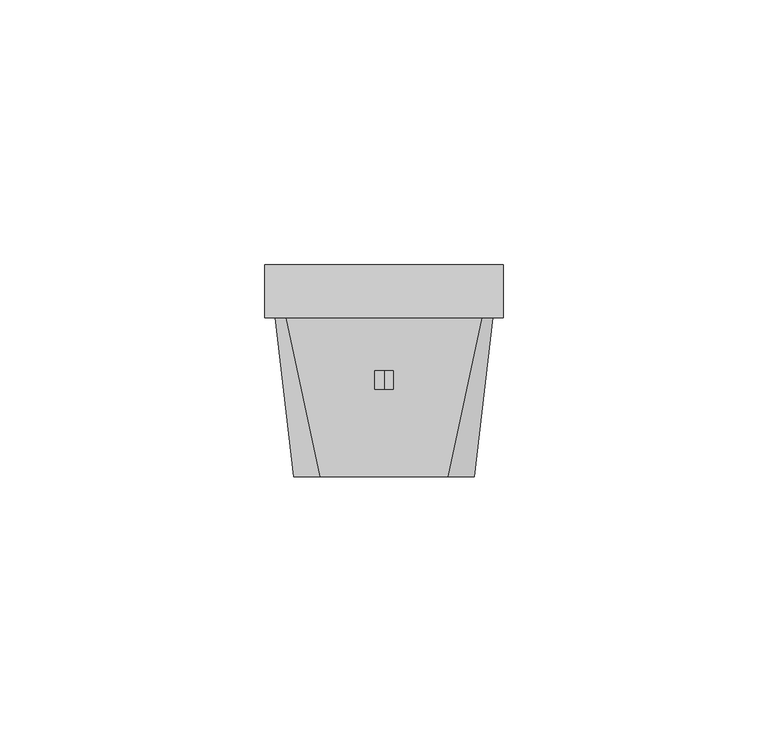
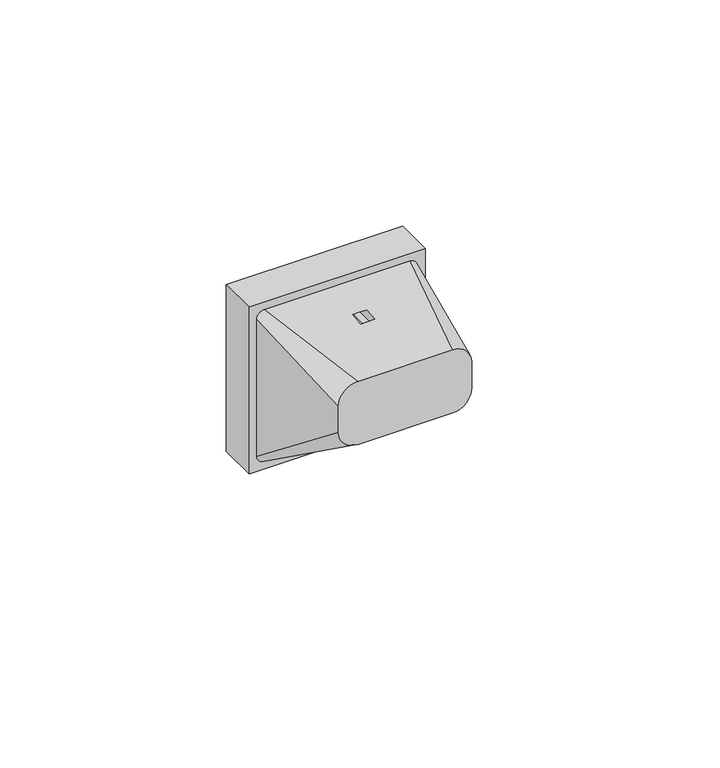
"""IFC4 building model written with IfcOpenShell, lengths in millimetres: proxy geometry, IEK_Skandy_Механизм розетки 230В : 230 В PE+шт. USB C_SK-R17B."""

from ifc_helpers import new_model, si_unit, point, frame, frame_2d, origin, origin_2d, place, context, project, spatial, polyline, circle_curve, ellipse_curve, trimmed, segment, composite_curve, outline, extrude, source, transform, mapped, element, save
from ifc_brep_helpers import plane_surface, cylinder_surface, revolved_surface, spline_surface, advanced_brep


def electrical_fixtures_49105fda(model_context):
    return source(origin(), model_context, "Body", "SolidModel", [
        advanced_brep(
        [(-12.0, -30.0, 17.0), (-17.0, -30.0, 12.0), (-17.0, -30.0, 5.0), (-12.0, -30.0, 0.0), (12.0, -30.0, 0.0), (17.0, -30.0, 5.0), (17.0, -30.0, 12.0), (12.0, -30.0, 17.0), (-18.5, 0.0, 20.5), (18.5, 0.0, 20.5), (20.5, 0.0, 18.5), (20.5, 0.0, -18.5), (18.5, 0.0, -20.5), (-18.5, 0.0, -20.5), (-20.5, 0.0, -18.5), (-20.5, 0.0, 18.5), (6.3904783, 0.0, 0.0), (11.8753617, 0.0, 0.0), (-3.0105286, 0.0, 0.0), (3.0105286, 0.0, 0.0), (-11.8753617, 0.0, 0.0), (-6.3904783, 0.0, 0.0), (1.7917908, 0.0, -19.3280847), (1.7917908, 0.0, -16.8280847), (0.0, 0.0, -16.8280847), (-1.7917908, 0.0, -16.8280847), (-1.7917908, 0.0, -19.3280847), (0.0, 0.0, -19.3280847), (1.7917908, 0.0, 19.3280847), (0.0, 0.0, 19.3280847), (-1.7917908, 0.0, 19.3280847), (-1.7917908, 0.0, 16.8280847), (0.0, 0.0, 16.8280847), (1.7917908, 0.0, 16.8280847), (1.7917908, -13.4962918, 18.9254326), (-1.7917908, -13.4962918, 18.9254326), (-1.7917908, -10.0449886, 19.3280847), (0.0, -10.0449886, 19.3280847), (1.7917908, -10.0449886, 19.3280847), (1.7917908, -5.3735346, -16.8280847), (1.7917908, -1.7149981, -19.3280847), (0.0, -1.7149981, -19.3280847), (-1.7917908, -1.7149981, -19.3280847), (-1.7917908, -5.3735346, -16.8280847), (0.0, -5.3735346, -16.8280847), (6.3904783, -13.4962918, 0.0), (11.8753617, -13.4962918, 0.0), (-3.0105286, -13.4962918, 0.0), (3.0105286, -13.4962918, 0.0), (-11.8753617, -13.4962918, 0.0), (-6.3904783, -13.4962918, 0.0), (1.7917908, -13.4962918, 16.8280847), (0.0, -13.4962918, 16.8280847), (-1.7917908, -13.4962918, 16.8280847)],
        [
            (0, 1, circle_curve(frame((-12.0, -30.0, 12.0), z_axis=(0.0, -1.0, 0.0), x_axis=(1.0, 0.0, 0.0)), 5.0)),
            (1, 2),
            (2, 3, circle_curve(frame((-12.0, -30.0, 5.0), z_axis=(0.0, -1.0, 0.0), x_axis=(1.0, 0.0, 0.0)), 5.0)),
            (3, 4),
            (4, 5, circle_curve(frame((12.0, -30.0, 5.0), z_axis=(0.0, -1.0, 0.0), x_axis=(1.0, 0.0, 0.0)), 5.0)),
            (5, 6),
            (6, 7, circle_curve(frame((12.0, -30.0, 12.0), z_axis=(0.0, -1.0, 0.0), x_axis=(1.0, 0.0, 0.0)), 5.0)),
            (7, 0),
            (8, 9),
            (9, 10, circle_curve(frame((18.5, 0.0, 18.5), z_axis=(0.0, 1.0, 0.0), x_axis=(1.0, 0.0, 0.0)), 2.0)),
            (10, 11),
            (11, 12, circle_curve(frame((18.5, 0.0, -18.5), z_axis=(0.0, 1.0, 0.0), x_axis=(1.0, 0.0, 0.0)), 2.0)),
            (12, 13),
            (13, 14, circle_curve(frame((-18.5, 0.0, -18.5), z_axis=(0.0, 1.0, 0.0), x_axis=(1.0, 0.0, 0.0)), 2.0)),
            (14, 15),
            (15, 8, circle_curve(frame((-18.5, 0.0, 18.5), z_axis=(0.0, 1.0, 0.0), x_axis=(1.0, 0.0, 0.0)), 2.0)),
            (16, 17, circle_curve(frame((9.13292, 0.0, 0.0), z_axis=(0.0, -1.0, 0.0), x_axis=(1.0, 0.0, 0.0)), 2.7424417)),
            (17, 16, circle_curve(frame((9.13292, 0.0, 0.0), z_axis=(0.0, -1.0, 0.0), x_axis=(1.0, 0.0, 0.0)), 2.7424417)),
            (18, 19, circle_curve(frame((0.0, 0.0, 0.0), z_axis=(0.0, -1.0, 0.0), x_axis=(1.0, 0.0, 0.0)), 3.0105286)),
            (19, 18, circle_curve(frame((0.0, 0.0, 0.0), z_axis=(0.0, -1.0, 0.0), x_axis=(1.0, 0.0, 0.0)), 3.0105286)),
            (20, 21, circle_curve(frame((-9.13292, 0.0, 0.0), z_axis=(0.0, -1.0, 0.0), x_axis=(1.0, 0.0, 0.0)), 2.7424417)),
            (21, 20, circle_curve(frame((-9.13292, 0.0, 0.0), z_axis=(0.0, -1.0, 0.0), x_axis=(1.0, 0.0, 0.0)), 2.7424417)),
            (22, 23),
            (23, 24),
            (24, 25),
            (25, 26),
            (26, 27),
            (27, 22),
            (28, 29),
            (29, 30),
            (30, 31),
            (31, 32),
            (32, 33),
            (33, 28),
            (7, 9),
            (8, 0),
            (34, 35),
            (35, 36),
            (36, 37),
            (37, 38),
            (38, 34),
            (6, 10),
            (5, 11),
            (4, 12),
            (3, 13),
            (39, 40),
            (40, 41),
            (41, 42),
            (42, 43),
            (43, 44),
            (44, 39),
            (2, 14),
            (1, 15),
            (45, 46, circle_curve(frame((9.13292, -13.4962918, 0.0), z_axis=(0.0, 1.0, 0.0), x_axis=(1.0, 0.0, 0.0)), 2.7424417)),
            (46, 45, circle_curve(frame((9.13292, -13.4962918, 0.0), z_axis=(0.0, 1.0, 0.0), x_axis=(1.0, 0.0, 0.0)), 2.7424417)),
            (47, 48, circle_curve(frame((0.0, -13.4962918, 0.0), z_axis=(0.0, 1.0, 0.0), x_axis=(1.0, 0.0, 0.0)), 3.0105286)),
            (48, 47, circle_curve(frame((0.0, -13.4962918, 0.0), z_axis=(0.0, 1.0, 0.0), x_axis=(1.0, 0.0, 0.0)), 3.0105286)),
            (49, 50, circle_curve(frame((-9.13292, -13.4962918, 0.0), z_axis=(0.0, 1.0, 0.0), x_axis=(1.0, 0.0, 0.0)), 2.7424417)),
            (50, 49, circle_curve(frame((-9.13292, -13.4962918, 0.0), z_axis=(0.0, 1.0, 0.0), x_axis=(1.0, 0.0, 0.0)), 2.7424417)),
            (51, 52),
            (52, 53),
            (53, 35),
            (34, 51),
            (46, 17),
            (16, 45),
            (48, 19),
            (18, 47),
            (50, 21),
            (20, 49),
            (28, 38),
            (37, 29),
            (36, 30),
            (53, 31),
            (52, 32),
            (51, 33),
            (22, 40),
            (39, 23),
            (44, 24),
            (43, 25),
            (42, 26),
            (41, 27),
        ],
        [
            plane_surface(frame((0.0, -30.0, 8.5), z_axis=(0.0, -1.0, 0.0), x_axis=(-1.0, 0.0, 0.0))),
            plane_surface(frame((0.0, 0.0, 0.0), z_axis=(0.0, 1.0, 0.0), x_axis=(-1.0, 0.0, 0.0))),
            plane_surface(frame((0.0, 0.0, 20.5), z_axis=(0.0, -0.11588069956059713, 0.9932631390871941), x_axis=(-1.0, 0.0, 0.0))),
            spline_surface(2, 1, [[(20.5, 0.0, 18.5), (17.0, -30.0, 12.0)], [(20.5, 0.0, 20.5), (17.0, -30.0, 17.0)], [(18.5, 0.0, 20.5), (12.0, -30.0, 17.0)]], [3, 3], [2, 2], [0.0, 1.0], [0.0, 1.0], weights=[[1.0, 1.0], [0.7071067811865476, 0.7071067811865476], [1.0, 1.0]]),
            plane_surface(frame((20.5, 0.0, 0.0), z_axis=(0.993263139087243, -0.11588069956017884, 0.0), x_axis=(0.0, 0.0, 1.0))),
            spline_surface(2, 1, [[(18.5, 0.0, -20.5), (12.0, -30.0, 0.0)], [(20.5, 0.0, -20.5), (17.0, -30.0, 0.0)], [(20.5, 0.0, -18.5), (17.0, -30.0, 5.0)]], [3, 3], [2, 2], [0.0, 1.0], [0.0, 1.0], weights=[[1.0, 1.0], [0.7071067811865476, 0.7071067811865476], [1.0, 1.0]]),
            plane_surface(frame((0.0, 0.0, -20.5), z_axis=(0.0, -0.5641905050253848, -0.8256446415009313), x_axis=(1.0, 0.0, 0.0))),
            spline_surface(2, 1, [[(-20.5, 0.0, -18.5), (-17.0, -30.0, 5.0)], [(-20.5, 0.0, -20.5), (-17.0, -30.0, 0.0)], [(-18.5, 0.0, -20.5), (-12.0, -30.0, 0.0)]], [3, 3], [2, 2], [0.0, 1.0], [0.0, 1.0], weights=[[1.0, 1.0], [0.7071067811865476, 0.7071067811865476], [1.0, 1.0]]),
            plane_surface(frame((-20.5, 0.0, 0.0), z_axis=(-0.9932631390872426, -0.11588069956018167, 0.0), x_axis=(0.0, 0.0, -1.0))),
            spline_surface(2, 1, [[(-18.5, 0.0, 20.5), (-12.0, -30.0, 17.0)], [(-20.5, 0.0, 20.5), (-17.0, -30.0, 17.0)], [(-20.5, 0.0, 18.5), (-17.0, -30.0, 12.0)]], [3, 3], [2, 2], [0.0, 1.0], [0.0, 1.0], weights=[[1.0, 1.0], [0.7071067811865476, 0.7071067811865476], [1.0, 1.0]]),
            plane_surface(frame((11.8753617, -13.4962918, 0.0), z_axis=(0.0, 1.0, 0.0), x_axis=(0.0, 0.0, 1.0))),
            revolved_surface(polyline([(11.875361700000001, -13.4962918, 0.0), (11.875361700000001, 0.0, 0.0)]), (9.13292, 0.0, 0.0), (0.0, -1.0, 0.0)),
            revolved_surface(polyline([(3.0105286, -13.4962918, 0.0), (3.0105286, 0.0, 0.0)]), (0.0, -2.0, 0.0), (0.0, -1.0, 0.0)),
            revolved_surface(polyline([(-6.3904783, -13.4962918, 0.0), (-6.3904783, 0.0, 0.0)]), (-9.13292, -2.0, 0.0), (0.0, -1.0, 0.0)),
            plane_surface(frame((1.7917908, -13.4962918, 19.3280847), z_axis=(0.0, 0.0, -1.0), x_axis=(0.0, 1.0, 0.0))),
            plane_surface(frame((0.0, -13.4962918, 19.3280847), z_axis=(0.0, 0.0, -1.0), x_axis=(0.0, 1.0, 0.0))),
            plane_surface(frame((-1.7917908, -13.4962918, 19.3280847), z_axis=(1.0, 0.0, 0.0), x_axis=(0.0, 1.0, 0.0))),
            plane_surface(frame((-1.7917908, -13.4962918, 16.8280847), z_axis=(0.0, 0.0, 1.0), x_axis=(0.0, 1.0, 0.0))),
            plane_surface(frame((0.0, -13.4962918, 16.8280847), z_axis=(0.0, 0.0, 1.0), x_axis=(0.0, 1.0, 0.0))),
            plane_surface(frame((1.7917908, -13.4962918, 16.8280847), z_axis=(-1.0, 0.0, 0.0), x_axis=(0.0, 1.0, 0.0))),
            plane_surface(frame((1.7917908, -13.4962918, -19.3280847), z_axis=(-1.0, 0.0, 0.0), x_axis=(0.0, 1.0, 0.0))),
            plane_surface(frame((1.7917908, -13.4962918, -16.8280847), z_axis=(0.0, 0.0, -1.0), x_axis=(0.0, 1.0, 0.0))),
            plane_surface(frame((0.0, -13.4962918, -16.8280847), z_axis=(0.0, 0.0, -1.0), x_axis=(0.0, 1.0, 0.0))),
            plane_surface(frame((-1.7917908, -13.4962918, -16.8280847), z_axis=(1.0, 0.0, 0.0), x_axis=(0.0, 1.0, 0.0))),
            plane_surface(frame((-1.7917908, -13.4962918, -19.3280847), z_axis=(0.0, 0.0, 1.0), x_axis=(0.0, 1.0, 0.0))),
            plane_surface(frame((0.0, -13.4962918, -19.3280847), z_axis=(0.0, 0.0, 1.0), x_axis=(0.0, 1.0, 0.0))),
        ],
        [
            (0, [[1, 2, 3, 4, 5, 6, 7, 8]]),
            (1, [[9, 10, 11, 12, 13, 14, 15, 16], [17, 18], [19, 20], [21, 22], [23, 24, 25, 26, 27, 28], [29, 30, 31, 32, 33, 34]]),
            (2, [[-8, 35, -9, 36], [37, 38, 39, 40, 41]]),
            (3, [[-7, 42, -10, -35]]),
            (4, [[-6, 43, -11, -42]]),
            (5, [[-5, 44, -12, -43]]),
            (6, [[-4, 45, -13, -44], [46, 47, 48, 49, 50, 51]]),
            (7, [[-3, 52, -14, -45]]),
            (8, [[-2, 53, -15, -52]]),
            (9, [[-1, -36, -16, -53]]),
            (10, [[54, 55]]),
            (10, [[56, 57]]),
            (10, [[58, 59]]),
            (10, [[60, 61, 62, -37, 63]]),
            (11, [[-55, 64, -17, 65]]),
            (11, [[-54, -65, -18, -64]]),
            (12, [[-57, 66, -19, 67]]),
            (12, [[-56, -67, -20, -66]]),
            (13, [[-59, 68, -21, 69]]),
            (13, [[-58, -69, -22, -68]]),
            (14, [[70, -40, 71, -29]]),
            (15, [[-71, -39, 72, -30]]),
            (16, [[73, -31, -72, -38, -62]]),
            (17, [[-61, 74, -32, -73]]),
            (18, [[-60, 75, -33, -74]]),
            (19, [[-75, -63, -41, -70, -34]]),
            (20, [[76, -46, 77, -23]]),
            (21, [[-77, -51, 78, -24]]),
            (22, [[-78, -50, 79, -25]]),
            (23, [[-79, -49, 80, -26]]),
            (24, [[-80, -48, 81, -27]]),
            (25, [[-76, -28, -81, -47]]),
        ],
    ),
        advanced_brep(
        [(20.0, 0.0, 0.0), (20.0, 10.0, 0.0), (-20.0, 10.0, 0.0), (-20.0, 0.0, 0.0), (-22.5, 10.0, 22.5), (22.5, 10.0, 22.5), (22.5, 10.0, -22.5), (-22.5, 10.0, -22.5), (18.4763853, 10.0, 13.359118), (20.5977057, 10.0, 15.4804383), (15.6190267, 10.0, 20.4591173), (13.4977063, 10.0, 18.337797), (-22.5, 0.0, 22.5), (-22.5, 0.0, -22.5), (22.5, 0.0, -22.5), (22.5, 0.0, 22.5), (20.5977057, 1.865818, 15.4804383), (18.4763853, 1.865818, 13.359118), (13.4977063, 1.865818, 18.337797), (15.6190267, 1.865818, 20.4591173)],
        [
            (0, 1),
            (1, 2, circle_curve(frame((0.0, 10.0, 0.0), z_axis=(0.0, 1.0, 0.0), x_axis=(1.0, 0.0, 0.0)), 20.0)),
            (2, 3),
            (3, 0, circle_curve(frame((0.0, 0.0, 0.0), z_axis=(0.0, -1.0, 0.0), x_axis=(1.0, 0.0, 0.0)), 20.0)),
            (0, 3, circle_curve(frame((0.0, 0.0, 0.0), z_axis=(0.0, -1.0, 0.0), x_axis=(1.0, 0.0, 0.0)), 20.0)),
            (2, 1, circle_curve(frame((0.0, 10.0, 0.0), z_axis=(0.0, 1.0, 0.0), x_axis=(1.0, 0.0, 0.0)), 20.0)),
            (4, 5),
            (5, 6),
            (6, 7),
            (7, 4),
            (8, 9, circle_curve(frame((19.5370455, 10.0, 14.4197782), z_axis=(0.0, -1.0, 0.0), x_axis=(-0.707106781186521, 0.0, -0.7071067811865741)), 1.5)),
            (9, 10),
            (10, 11, circle_curve(frame((14.5583665, 10.0, 19.3984572), z_axis=(0.0, -1.0, 0.0), x_axis=(-0.707106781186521, 0.0, -0.7071067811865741)), 1.5)),
            (11, 8),
            (12, 13),
            (13, 14),
            (14, 15),
            (15, 12),
            (7, 13),
            (12, 4),
            (6, 14),
            (5, 15),
            (16, 17, circle_curve(frame((19.5370455, 1.865818, 14.4197782), z_axis=(0.0, 1.0, 0.0), x_axis=(-0.707106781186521, 0.0, -0.7071067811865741)), 1.5)),
            (17, 18),
            (18, 19, circle_curve(frame((14.5583665, 1.865818, 19.3984572), z_axis=(0.0, 1.0, 0.0), x_axis=(-0.707106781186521, 0.0, -0.7071067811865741)), 1.5)),
            (19, 16),
            (16, 9),
            (8, 17),
            (11, 18),
            (10, 19),
        ],
        [
            revolved_surface(polyline([(20.0, 0.0, 0.0), (20.0, 10.0, 0.0)]), (0.0, 10.0, 0.0), (0.0, -1.0, 0.0)),
            plane_surface(frame((-22.5, 10.0, -22.5), z_axis=(0.0, 1.0, 0.0), x_axis=(0.0, 0.0, 1.0))),
            plane_surface(frame((-22.5, 0.0, -22.5), z_axis=(0.0, -1.0, 0.0), x_axis=(0.0, 0.0, -1.0))),
            plane_surface(frame((-22.5, 0.0, 22.5), z_axis=(-1.0, 0.0, 0.0), x_axis=(0.0, 1.0, 0.0))),
            plane_surface(frame((-22.5, 0.0, -22.5), z_axis=(0.0, 0.0, -1.0), x_axis=(0.0, 1.0, 0.0))),
            plane_surface(frame((22.5, 0.0, -22.5), z_axis=(1.0, 0.0, 0.0), x_axis=(0.0, 1.0, 0.0))),
            plane_surface(frame((22.5, 0.0, 22.5), z_axis=(0.0, 0.0, 1.0), x_axis=(0.0, 1.0, 0.0))),
            plane_surface(frame((18.4763853, 1.865818, 13.359118), z_axis=(0.0, 1.0000000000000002, 0.0), x_axis=(0.7071067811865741, 0.0, -0.707106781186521))),
            revolved_surface(polyline([(18.47638532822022, 10.000000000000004, 13.359118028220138), (18.47638532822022, 1.865818, 13.359118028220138)]), (19.5370455, 1.865818, 14.4197782), (0.0, 1.0000000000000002, 0.0)),
            plane_surface(frame((18.4763853, 10.0, 13.359118), z_axis=(0.707106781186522, 0.0, 0.7071067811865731), x_axis=(0.0, -1.0, 0.0))),
            revolved_surface(polyline([(13.497706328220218, 10.000000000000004, 18.337797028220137), (13.497706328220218, 1.865818, 18.337797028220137)]), (14.5583665, 1.865818, 19.3984572), (0.0, 1.0000000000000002, 0.0)),
            plane_surface(frame((15.6190267, 10.0, 20.4591173), z_axis=(-0.7071067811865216, 0.0, -0.7071067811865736), x_axis=(0.0, -1.0, 0.0))),
        ],
        [
            (0, [[1, 2, 3, 4]]),
            (0, [[-1, 5, -3, 6]]),
            (1, [[7, 8, 9, 10], [-2, -6], [11, 12, 13, 14]]),
            (2, [[15, 16, 17, 18], [-4, -5]]),
            (3, [[-10, 19, -15, 20]]),
            (4, [[-9, 21, -16, -19]]),
            (5, [[-8, 22, -17, -21]]),
            (6, [[-7, -20, -18, -22]]),
            (7, [[23, 24, 25, 26]]),
            (8, [[-23, 27, -11, 28]]),
            (9, [[-24, -28, -14, 29]]),
            (10, [[-25, -29, -13, 30]]),
            (11, [[-26, -30, -12, -27]]),
        ],
    ),
        extrude(outline(polyline([(0.0, -7.0658373), (0.0, 0.0), (6.432744, 0.0), (6.432744, -7.0658373), (0.0, -7.0658373)])), frame((19.2657196, 8.332744, 14.1308297), z_axis=(0.7071067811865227, 0.0, 0.7071067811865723), x_axis=(0.0, -1.0, 0.0)), (0.0, 0.0, 1.0), 0.9893176),
        extrude(outline(composite_curve([segment(polyline([(7.6710794, -19.3739261), (-1.7, -18.7042816), (-1.7, -17.5095674), (5.5330873, -18.3510967)]), True, "CONTINUOUS"), segment(trimmed(circle_curve(frame_2d((6.4251956, -19.2322549)), 1.2539127), [point((5.5330873, -18.3510967))], [point((7.6710794, -19.3739261))], False, "CARTESIAN"), True, "CONTINUOUS")], self_intersect=False)), frame((-1.5, 0.0, 0.0), z_axis=(1.0, 0.0, 0.0), x_axis=(0.0, 1.0, 0.0)), (0.0, 0.0, 1.0), 3.0),
        extrude(outline(composite_curve([segment(trimmed(circle_curve(frame_2d((6.4251956, 19.2322549)), 1.2539127), [point((7.6710794, 19.3739261))], [point((5.5330873, 18.3510967))], False, "CARTESIAN"), True, "CONTINUOUS"), segment(polyline([(5.5330873, 18.3510967), (-1.7, 17.5095674), (-1.7, 18.7042816), (7.6710794, 19.3739261)]), True, "CONTINUOUS")], self_intersect=False)), frame((-1.5, 0.0, 0.0), z_axis=(1.0, 0.0, 0.0), x_axis=(0.0, 1.0, 0.0)), (0.0, 0.0, 1.0), 3.0),
        advanced_brep(
        [(0.0, 0.078125, -2.8986917), (0.0, 0.078125, 2.8986917), (0.0, 0.8649081, 0.0), (0.0, -1.7, -2.8986917), (0.0, -1.7, 2.8986917), (0.0, -1.7, 0.0)],
        [
            (0, 1, circle_curve(frame((0.0, 0.078125, 0.0), z_axis=(0.0, 1.0, 0.0), x_axis=(0.0, 0.0, 1.0)), 2.8986917)),
            (1, 2, ellipse_curve(frame((0.0, 0.078125, 0.15625), z_axis=(-1.0, 0.0, 0.0), x_axis=(0.0, 0.0, 1.0)), 2.7424417, 0.7880633)),
            (2, 0, ellipse_curve(frame((0.0, 0.078125, -0.15625), z_axis=(-1.0, 0.0, 0.0), x_axis=(0.0, 0.0, -1.0)), 2.7424417, 0.7880633)),
            (1, 0, circle_curve(frame((0.0, 0.078125, 0.0), z_axis=(0.0, 1.0, 0.0), x_axis=(0.0, 0.0, 1.0)), 2.8986917)),
            (3, 4, circle_curve(frame((0.0, -1.7, 0.0), z_axis=(0.0, 1.0, 0.0), x_axis=(0.0, 0.0, 1.0)), 2.8986917)),
            (4, 1),
            (0, 3),
            (4, 3, circle_curve(frame((0.0, -1.7, 0.0), z_axis=(0.0, 1.0, 0.0), x_axis=(0.0, 0.0, 1.0)), 2.8986917)),
            (5, 4),
            (3, 5),
        ],
        [
            revolved_surface(trimmed(ellipse_curve(frame((0.0, 0.078125, 0.15625), z_axis=(1.0, 0.0, 0.0), x_axis=(0.0, 0.0, 1.0)), 2.7424417, 0.7880633), [point((0.0, 0.8649081, 0.0))], [point((0.0, 0.078125, 2.8986917))], True, "CARTESIAN"), (0.0, -3.0228134, 0.0), (0.0, -1.0, 0.0)),
            cylinder_surface(frame((0.0, -3.0228134, 0.0), z_axis=(0.0, -1.0, 0.0), x_axis=(0.0, 0.0, 1.0)), 2.8986917),
            plane_surface(frame((0.0, -1.7, 0.0), z_axis=(0.0, -1.0, 0.0), x_axis=(0.0, 0.0, 1.0))),
        ],
        [
            (0, [[1, 2, 3]]),
            (0, [[4, -3, -2]]),
            (1, [[5, 6, -1, 7]]),
            (1, [[8, -7, -4, -6]]),
            (2, [[9, -5, 10]]),
            (2, [[-10, -8, -9]]),
        ],
    ),
        extrude(outline(composite_curve([segment(polyline([(3.2980592, 16.488464), (3.2980592, 19.7261959)]), True, "CONTINUOUS"), segment(trimmed(circle_curve(origin_2d(), 20.0), [point((3.2980592, 19.7261959))], [point((11.3194768, 16.488464))], False, "CARTESIAN"), True, "CONTINUOUS"), segment(polyline([(11.3194768, 16.488464), (3.2980592, 16.488464)]), True, "CONTINUOUS")], self_intersect=False)), frame((0.0, 0.0, 0.0), z_axis=(0.0, 1.0, 0.0), x_axis=(0.0, 0.0, 1.0)), (0.0, 0.0, 1.0), 8.0),
        extrude(outline(composite_curve([segment(polyline([(-3.2980592, 16.488464), (-11.3194768, 16.488464)]), True, "CONTINUOUS"), segment(trimmed(circle_curve(origin_2d(), 20.0), [point((-11.3194768, 16.488464))], [point((-3.2980592, 19.7261959))], False, "CARTESIAN"), True, "CONTINUOUS"), segment(polyline([(-3.2980592, 19.7261959), (-3.2980592, 16.488464)]), True, "CONTINUOUS")], self_intersect=False)), frame((0.0, 0.0, 0.0), z_axis=(0.0, 1.0, 0.0), x_axis=(0.0, 0.0, 1.0)), (0.0, 0.0, 1.0), 8.0),
        extrude(outline(composite_curve([segment(polyline([(3.2980592, -16.488464), (11.3194768, -16.488464)]), True, "CONTINUOUS"), segment(trimmed(circle_curve(origin_2d(), 20.0), [point((11.3194768, -16.488464))], [point((3.2980592, -19.7261959))], False, "CARTESIAN"), True, "CONTINUOUS"), segment(polyline([(3.2980592, -19.7261959), (3.2980592, -16.488464)]), True, "CONTINUOUS")], self_intersect=False)), frame((0.0, 0.0, 0.0), z_axis=(0.0, 1.0, 0.0), x_axis=(0.0, 0.0, 1.0)), (0.0, 0.0, 1.0), 8.0),
        extrude(outline(composite_curve([segment(polyline([(-3.2980592, -16.488464), (-3.2980592, -19.7261959)]), True, "CONTINUOUS"), segment(trimmed(circle_curve(origin_2d(), 20.0), [point((-3.2980592, -19.7261959))], [point((-11.3194768, -16.488464))], False, "CARTESIAN"), True, "CONTINUOUS"), segment(polyline([(-11.3194768, -16.488464), (-3.2980592, -16.488464)]), True, "CONTINUOUS")], self_intersect=False)), frame((0.0, 0.0, 0.0), z_axis=(0.0, 1.0, 0.0), x_axis=(0.0, 0.0, 1.0)), (0.0, 0.0, 1.0), 8.0),
    ])


if __name__ == "__main__":
    model = new_model("IFC4")
    model_context = context("Model", 3, world=origin())
    ifc_project = project(units=[si_unit("LENGTHUNIT", "METRE", prefix="MILLI")], contexts=[model_context])
    site = spatial("IfcSite", under=ifc_project)
    building = spatial("IfcBuilding", under=site)
    placement = place(None, origin())
    electrical_fixtures_shape = electrical_fixtures_49105fda(model_context)
    element("IfcBuildingElementProxy", 1, Name="IEK_Skandy_Механизм розетки 230В : 230 В PE+шт. USB C_SK-R17B", ObjectType="IEK_Skandy_Механизм розетки 230В : 230 В PE+шт. USB C_SK-R17B", at=placement, inside=building, context=model_context, shape_type="MappedRepresentation", body=[
        mapped(electrical_fixtures_shape, transform((0.0, 0.0, 0.0), x_axis=(1.0, 0.0, 0.0), y_axis=(0.0, 1.0, 0.0), z_axis=(0.0, 0.0, 1.0))),
    ])
    save(model, "model.ifc")
